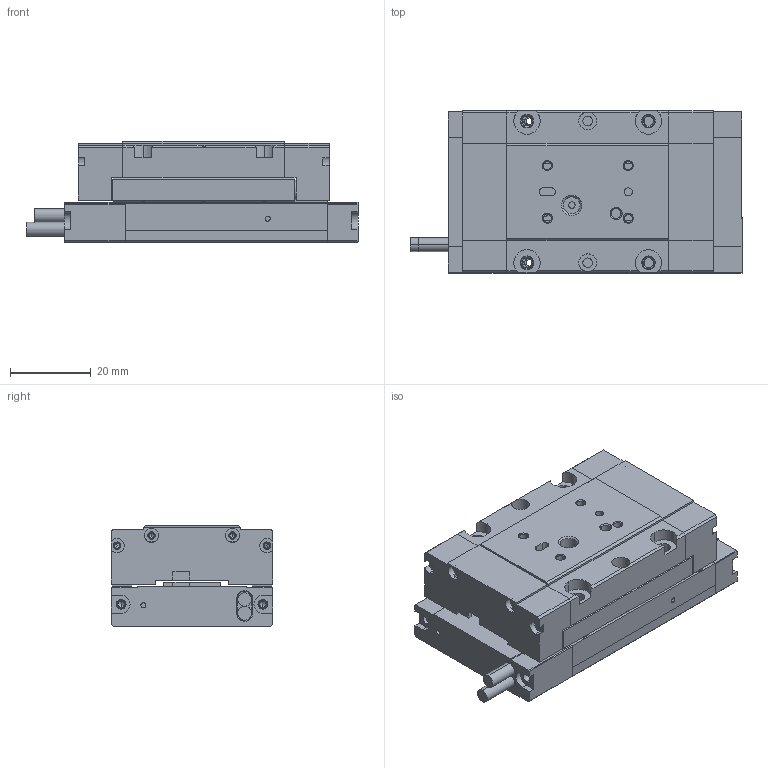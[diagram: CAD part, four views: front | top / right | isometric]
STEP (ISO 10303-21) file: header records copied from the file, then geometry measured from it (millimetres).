
FILE_DESCRIPTION (( 'STEP AP203' ), '1' );
FILE_NAME ('SLA25-010-XX-2_G.STEP', '2017-10-20T16:04:46', ( '' ), ( '' ), 'SwSTEP 2.0', 'SolidWorks 2016', '' );
FILE_SCHEMA (( 'CONFIG_CONTROL_DESIGN' ));
Length unit declared in the file: millimetre
Products named in the file (11): 802523-05_A STEP; 23591-03_A; 12597-10_C; 23591-02_A; 23590-01_D; SLA25CABLE3; SLA25-010-XX-2_G; 14718-10_G; 802523-20_A; 14718-11_G; 63607-45_A_001
Assembly tree (12 placements, depth 3):
  SLA25-010-XX-2_G
    802523-05_A STEP
      14718-10_G
      14718-11_G
    802523-20_A
      12597-10_C
      23590-01_D  x2
    63607-45_A_001  x2
    23591-03_A
    23591-02_A
    SLA25CABLE3
Bounding box: 82 x 40 x 25 mm (x, y, z)
Volume: 30530.9 mm3; surface area: 30079.8 mm2
Topology: 10 solids, 10 shells, 715 faces, 1992 edges, 1271 vertices
Faces by surface type: plane 321, cylinder 279, cone 107, torus 8
Entity records: 21003 total; most frequent: CARTESIAN_POINT 3923, DIRECTION 3368, ORIENTED_EDGE 3298, EDGE_CURVE 1649, AXIS2_PLACEMENT_3D 1174, VERTEX_POINT 1065, VECTOR 1020, LINE 1020
